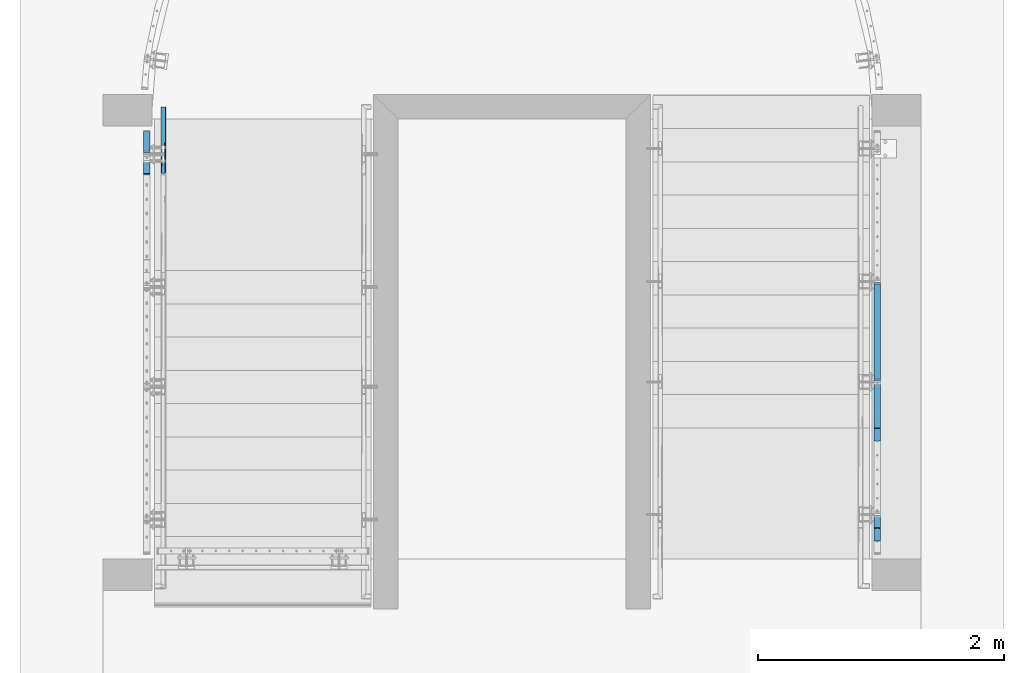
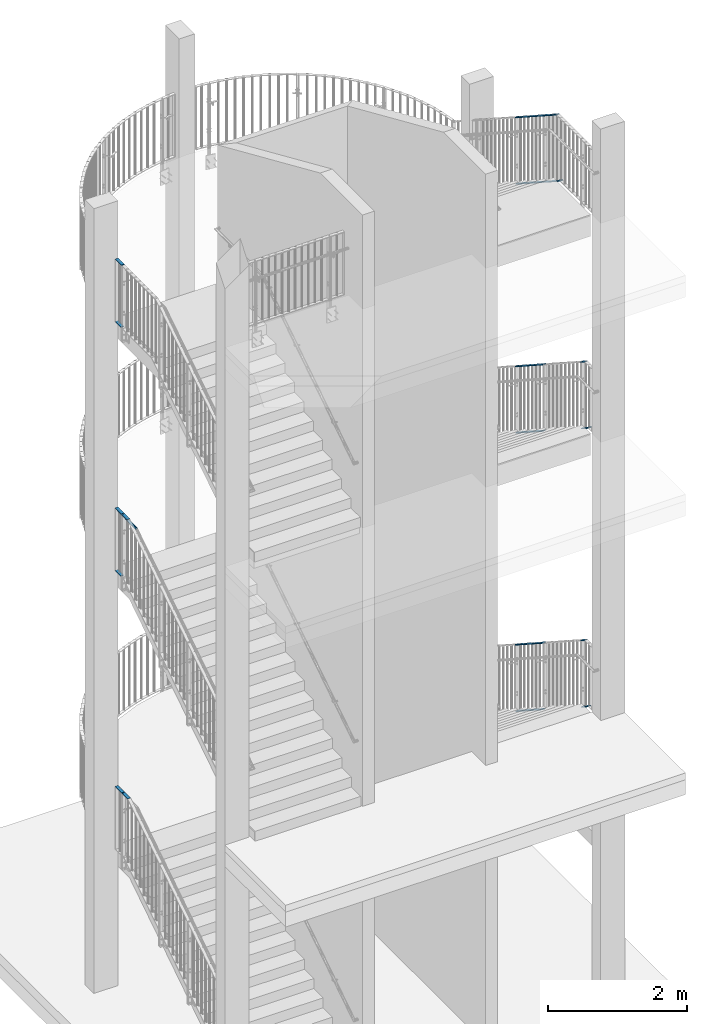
# One storey, part 99 of 296: 12 members, 8 beams, 9 openings.
"""IFC2X3 building model written with IfcOpenShell, lengths in millimetres."""

from ifc_helpers import new_model, entity, si_unit, converted_unit, frame, origin, origin_with_axes, origin_2d, place, context, project, spatial, polyline, rectangle, circle, outline, extrude, clip, halfspace, material, element, save


model = new_model("IFC2X3")

# Units and contexts
model_context = context("Model", 3, precision=1e-09, world=origin_with_axes())
ifc_project = project(units=[si_unit("LENGTHUNIT", "METRE", prefix="MILLI"), si_unit("AREAUNIT", "SQUARE_METRE"), si_unit("VOLUMEUNIT", "CUBIC_METRE"), converted_unit("PLANEANGLEUNIT", "DEGREE", entity("IfcPlaneAngleMeasure", 0.01745329), si_unit("PLANEANGLEUNIT", "RADIAN"), dimensions=[0, 0, 0, 0, 0, 0, 0])], contexts=[model_context])

# Site, building, storey
site_placement = place(None, origin_with_axes())
site = spatial("IfcSite", under=ifc_project, at=site_placement, Name="TZD-S?d | Treppenhausgel?nder", CompositionType="ELEMENT")
building_placement = place(site_placement, origin_with_axes())
building = spatial("IfcBuilding", under=site, at=building_placement, Name="Struktur 1", CompositionType="ELEMENT")
storey_placement = place(building_placement, origin_with_axes())
storey = spatial("IfcBuildingStorey", under=building, at=storey_placement, Name="Default Storey", CompositionType="ELEMENT", Elevation=0.0)

# Member, opening
ifc_material_1 = material(Name="S235JR")
member_1_placement = place(None, frame((5894.999, -3419.781959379, 10825.895227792), z_axis=(0.0, -0.839339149, 0.543608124), x_axis=(0.0, 0.543608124, 0.839339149)))
member_1 = element("IfcMember", 1, at=member_1_placement, inside=storey, material=ifc_material_1, Name="-", ObjectType="-", context=model_context, shape_type="Clipping", body=[
    clip(extrude(rectangle(XDim=10.0, YDim=50.0, at=origin_2d()), origin(), (0.0, 0.0, 1.0), 153.707656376), halfspace(frame((-9061.287932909, 5894.999, -2550.900110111), z_axis=(0.283426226, 0.0, -0.958994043), x_axis=(0.0, 1.0, 0.0)), True)),
])
opening_1_placement = place(member_1_placement, frame((-23.272061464, -125.1, -11.832929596), z_axis=(0.0, -1.0, 0.0), x_axis=(0.543608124, 0.0, -0.839339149)))
element("IfcOpeningElement", 2, at=opening_1_placement, cuts=member_1, ObjectType="Opening", context=model_context, shape_type="SweptSolid", body=[
    extrude(outline(polyline([(0.0, 0.0), (52.09462461, 0.0), (52.09462461, 76.178630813), (0.0, 76.178630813), (0.0, 0.0)])), origin(), (0.0, 0.0, -1.0), 250.2),
])

# Member
member_2_placement = place(None, frame((5894.999, -3404.504902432, 9647.914992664), z_axis=(0.0, -0.839339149, 0.543608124), x_axis=(0.0, 0.543608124, 0.839339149)))
element("IfcMember", 3, at=member_2_placement, inside=storey, material=ifc_material_1, Name="-", ObjectType="-", context=model_context, shape_type="Clipping", body=[
    clip(clip(extrude(rectangle(XDim=10.0, YDim=50.0, at=origin_2d()), origin(), (0.0, 0.0, 1.0), 297.157011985), halfspace(frame((-8021.077834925, 5894.999, -2100.021501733), z_axis=(0.283426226, 0.0, -0.958994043), x_axis=(0.0, 1.0, 0.0)), True)), halfspace(frame((-8115.809707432, 5894.999, -5216.990055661), z_axis=(-0.543608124, 0.0, 0.839339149), x_axis=(0.0, -1.0, 0.0)), True)),
])

# Member, opening
member_3_placement = place(None, frame((5894.999, -3419.785202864, 5929.248477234), z_axis=(0.0, -0.83975893, 0.542959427), x_axis=(0.0, 0.542959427, 0.83975893)))
member_3 = element("IfcMember", 4, at=member_3_placement, inside=storey, material=ifc_material_1, Name="-", ObjectType="-", context=model_context, shape_type="Clipping", body=[
    clip(extrude(rectangle(XDim=10.0, YDim=50.0, at=origin_2d()), origin(), (0.0, 0.0, 1.0), 147.680627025), halfspace(frame((-4558.667087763, 5894.999, -1224.280677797), z_axis=(0.28305571, 0.0, -0.959103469), x_axis=(0.0, 1.0, 0.0)), True)),
])
opening_2_placement = place(member_3_placement, frame((-21.443735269, -125.1, -10.630766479), z_axis=(0.0, -1.0, 0.0), x_axis=(0.542959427, 0.0, -0.83975893)))
element("IfcOpeningElement", 5, at=opening_2_placement, cuts=member_3, ObjectType="Opening", context=model_context, shape_type="SweptSolid", body=[
    extrude(outline(polyline([(0.0, 0.0), (45.032336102, 0.0), (45.032336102, 61.874078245), (0.0, 61.874078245), (0.0, 0.0)])), origin(), (0.0, 0.0, -1.0), 250.2),
])

# Member
member_4_placement = place(None, frame((5894.999, -3404.504902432, 4751.276936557), z_axis=(0.0, -0.83975893, 0.542959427), x_axis=(0.0, 0.542959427, 0.83975893)))
element("IfcMember", 6, at=member_4_placement, inside=storey, material=ifc_material_1, Name="-", ObjectType="-", context=model_context, shape_type="Clipping", body=[
    clip(clip(extrude(rectangle(XDim=10.0, YDim=50.0, at=origin_2d()), origin(), (0.0, 0.0, 1.0), 291.28535469), halfspace(frame((-3518.209319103, 5894.999, -773.610527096), z_axis=(0.28305571, 0.0, -0.959103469), x_axis=(0.0, 1.0, 0.0)), True)), halfspace(frame((-4007.842778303, 5894.999, -2552.041836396), z_axis=(-0.542959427, 0.0, 0.83975893), x_axis=(0.0, -1.0, 0.0)), True)),
])

# Member, openings
member_5_placement = place(None, frame((5894.999, -1524.781959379, 9598.575619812), z_axis=(0.0, -0.839339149, 0.543608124), x_axis=(0.0, 0.543608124, 0.839339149)))
member_5 = element("IfcMember", 7, at=member_5_placement, inside=storey, material=ifc_material_1, Name="Gel?nder", ObjectType="Gel?nder", context=model_context, shape_type="SweptSolid", body=[
    extrude(rectangle(XDim=10.0, YDim=50.0, at=origin_2d()), origin(), (0.0, 0.0, 1.0), 959.60742697),
])
opening_3_placement = place(member_5_placement, frame((-39.802336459, -125.1, 966.390711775), z_axis=(0.0, -1.0, 0.0), x_axis=(0.543608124, 0.0, -0.839339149)))
element("IfcOpeningElement", 8, at=opening_3_placement, cuts=member_5, ObjectType="Opening", context=model_context, shape_type="SweptSolid", body=[
    extrude(outline(polyline([(0.0, 0.0), (30.049390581, 0.0), (30.049390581, 97.267739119), (0.0, 97.267739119), (0.0, 0.0)])), origin(), (0.0, 0.0, -1.0), 250.2),
])
opening_4_placement = place(member_5_placement, frame((-19.625359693, -125.1, -9.471099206), z_axis=(0.0, -1.0, 0.0), x_axis=(0.543608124, 0.0, -0.839339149)))
element("IfcOpeningElement", 9, at=opening_4_placement, cuts=member_5, ObjectType="Opening", context=model_context, shape_type="SweptSolid", body=[
    extrude(outline(polyline([(0.0, 0.0), (63.378258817, 0.0), (63.378258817, 62.074893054), (0.0, 62.074893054), (0.0, 0.0)])), origin(), (0.0, 0.0, -1.0), 250.2),
])

# Member
member_6_placement = place(None, frame((5894.999, -1509.504902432, 8420.595384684), z_axis=(0.0, -0.839339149, 0.543608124), x_axis=(0.0, 0.543608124, 0.839339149)))
element("IfcMember", 10, at=member_6_placement, inside=storey, material=ifc_material_1, Name="-", ObjectType="-", context=model_context, shape_type="Clipping", body=[
    clip(clip(extrude(rectangle(XDim=10.0, YDim=50.0, at=origin_2d()), origin(), (0.0, 0.0, 1.0), 996.010010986), halfspace(frame((-7085.672311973, 5894.999, -4549.809145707), z_axis=(-0.543608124, 0.0, 0.839339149), x_axis=(0.0, -1.0, 0.0)), True)), halfspace(frame((-7504.249480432, 5894.999, -3903.519679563), z_axis=(0.543608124, 0.0, -0.839339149), x_axis=(0.0, 1.0, 0.0)), True)),
])

# Member, openings
member_7_placement = place(None, frame((5894.999, -1524.785202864, 4704.006234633), z_axis=(0.0, -0.83975893, 0.542959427), x_axis=(0.0, 0.542959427, 0.83975893)))
member_7 = element("IfcMember", 11, at=member_7_placement, inside=storey, material=ifc_material_1, Name="Gel?nder", ObjectType="Gel?nder", context=model_context, shape_type="SweptSolid", body=[
    extrude(rectangle(XDim=10.0, YDim=50.0, at=origin_2d()), origin(), (0.0, 0.0, 1.0), 959.120011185),
])
opening_5_placement = place(member_7_placement, frame((-44.806246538, -125.1, 972.359439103), z_axis=(0.0, -1.0, 0.0), x_axis=(0.542959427, 0.0, -0.83975893)))
element("IfcOpeningElement", 12, at=opening_5_placement, cuts=member_7, ObjectType="Opening", context=model_context, shape_type="SweptSolid", body=[
    extrude(outline(polyline([(0.0, 0.0), (38.161698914, 0.0), (38.161698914, 90.528361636), (0.0, 90.528361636), (0.0, 0.0)])), origin(), (0.0, 0.0, -1.0), 250.2),
])
opening_6_placement = place(member_7_placement, frame((-22.043829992, -125.1, -11.01876722), z_axis=(0.0, -1.0, 0.0), x_axis=(0.542959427, 0.0, -0.83975893)))
element("IfcOpeningElement", 13, at=opening_6_placement, cuts=member_7, ObjectType="Opening", context=model_context, shape_type="SweptSolid", body=[
    extrude(outline(polyline([(0.0, 0.0), (69.038911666, 0.0), (69.038911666, 61.879459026), (0.0, 61.879459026), (0.0, 0.0)])), origin(), (0.0, 0.0, -1.0), 250.2),
])

# Member
member_8_placement = place(None, frame((5894.999, -1509.504902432, 3526.034693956), z_axis=(0.0, -0.83975893, 0.542959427), x_axis=(0.0, 0.542959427, 0.83975893)))
element("IfcMember", 14, at=member_8_placement, inside=storey, material=ifc_material_1, Name="-", ObjectType="-", context=model_context, shape_type="Clipping", body=[
    clip(clip(extrude(rectangle(XDim=10.0, YDim=50.0, at=origin_2d()), origin(), (0.0, 0.0, 1.0), 995.512122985), halfspace(frame((-3397.012336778, 5894.999, -1240.172313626), z_axis=(0.542959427, 0.0, -0.83975893), x_axis=(0.0, 1.0, 0.0)), True)), halfspace(frame((-2978.934663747, 5894.999, -1886.785010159), z_axis=(-0.542959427, 0.0, 0.83975893), x_axis=(0.0, -1.0, 0.0)), True)),
])

# Member, openings
member_9_placement = place(None, frame((5894.999, -1524.782608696, 13976.681477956), z_axis=(0.0, -0.839423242, 0.543478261), x_axis=(0.0, 0.543478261, 0.839423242)))
member_9 = element("IfcMember", 15, at=member_9_placement, inside=storey, material=ifc_material_1, Name="Gel?nder", ObjectType="Gel?nder", context=model_context, shape_type="SweptSolid", body=[
    extrude(rectangle(XDim=10.0, YDim=50.0, at=origin_2d()), origin(), (0.0, 0.0, 1.0), 959.509746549),
])
opening_7_placement = place(member_9_placement, frame((-49.419629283, -125.1, 973.231347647), z_axis=(0.0, -1.0, 0.0), x_axis=(0.543478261, 0.0, -0.839423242)))
element("IfcOpeningElement", 16, at=opening_7_placement, cuts=member_9, ObjectType="Opening", context=model_context, shape_type="SweptSolid", body=[
    extrude(outline(polyline([(0.0, 0.0), (41.095116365, 0.0), (41.095116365, 101.132256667), (0.0, 101.132256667), (0.0, 0.0)])), origin(), (0.0, 0.0, -1.0), 250.2),
])
opening_8_placement = place(member_9_placement, frame((-23.555423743, -125.1, -12.012378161), z_axis=(0.0, -1.0, 0.0), x_axis=(0.543478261, 0.0, -0.839423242)))
element("IfcOpeningElement", 17, at=opening_8_placement, cuts=member_9, ObjectType="Opening", context=model_context, shape_type="SweptSolid", body=[
    extrude(outline(polyline([(0.0, 0.0), (69.512627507, 0.0), (69.512627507, 87.301111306), (0.0, 87.301111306), (0.0, 0.0)])), origin(), (0.0, 0.0, -1.0), 250.2),
])

# Member
member_10_placement = place(None, frame((5894.999, -1509.504902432, 12798.702983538), z_axis=(0.0, -0.839423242, 0.543478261), x_axis=(0.0, 0.543478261, 0.839423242)))
element("IfcMember", 18, at=member_10_placement, inside=storey, material=ifc_material_1, Name="-", ObjectType="-", context=model_context, shape_type="Clipping", body=[
    clip(clip(extrude(rectangle(XDim=10.0, YDim=50.0, at=origin_2d()), origin(), (0.0, 0.0, 1.0), 995.910230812), halfspace(frame((-11179.938593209, 5894.999, -6281.764929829), z_axis=(0.543478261, 0.0, -0.839423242), x_axis=(0.0, 1.0, 0.0)), True)), halfspace(frame((-10761.461419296, 5894.999, -6928.119147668), z_axis=(-0.543478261, 0.0, 0.839423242), x_axis=(0.0, -1.0, 0.0)), True)),
])

# Member, opening
member_11_placement = place(None, frame((5894.999, -2339.782608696, 14504.347094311), z_axis=(0.0, -0.839423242, 0.543478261), x_axis=(0.0, 0.543478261, 0.839423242)))
member_11 = element("IfcMember", 19, at=member_11_placement, inside=storey, material=ifc_material_1, Name="-", ObjectType="-", context=model_context, shape_type="Clipping", body=[
    clip(extrude(rectangle(XDim=10.0, YDim=50.0, at=origin_2d()), origin(), (0.0, 0.0, 1.0), 469.385989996), halfspace(frame((-12824.332258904, 5894.999, -3346.29272937), z_axis=(0.28335204, 0.0, -0.959015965), x_axis=(0.0, 1.0, 0.0)), True)),
])
opening_9_placement = place(member_11_placement, frame((-14.124217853, -125.1, -5.906214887), z_axis=(0.0, -1.0, 0.0), x_axis=(0.543478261, 0.0, -0.839423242)))
element("IfcOpeningElement", 20, at=opening_9_placement, cuts=member_11, ObjectType="Opening", context=model_context, shape_type="SweptSolid", body=[
    extrude(outline(polyline([(0.0, 0.0), (50.263830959, 0.0), (50.263830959, 57.716866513), (0.0, 57.716866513), (0.0, 0.0)])), origin(), (0.0, 0.0, -1.0), 250.2),
])

# Member
member_12_placement = place(None, frame((5894.999, -2324.504902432, 13326.368599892), z_axis=(0.0, -0.839423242, 0.543478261), x_axis=(0.0, 0.543478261, 0.839423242)))
element("IfcMember", 21, at=member_12_placement, inside=storey, material=ifc_material_1, Name="-", ObjectType="-", context=model_context, shape_type="Clipping", body=[
    clip(clip(extrude(rectangle(XDim=10.0, YDim=50.0, at=origin_2d()), origin(), (0.0, 0.0, 1.0), 612.866419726), halfspace(frame((-11784.072545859, 5894.999, -2895.455881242), z_axis=(0.28335204, 0.0, -0.959015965), x_axis=(0.0, 1.0, 0.0)), True)), halfspace(frame((-11204.396201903, 5894.999, -7214.893939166), z_axis=(-0.543478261, 0.0, 0.839423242), x_axis=(0.0, -1.0, 0.0)), True)),
])

# Beams
beam_1_placement = place(None, frame((-45.0, -295.0, 12820.0), z_axis=(0.0, 1.0, 0.0), x_axis=(0.0, 0.0, 1.0)))
element("IfcBeam", 22, at=beam_1_placement, inside=storey, material=ifc_material_1, Name="Gel?nder", ObjectType="Gel?nder", context=model_context, shape_type="SweptSolid", body=[
    extrude(rectangle(XDim=10.0, YDim=50.0, at=origin_2d()), origin(), (0.0, 0.0, -1.0), 177.5),
])
beam_2_placement = place(None, frame((-45.0, -457.5, 11720.0), z_axis=(0.0, 1.0, 0.0), x_axis=(0.0, 0.0, 1.0)))
element("IfcBeam", 23, at=beam_2_placement, inside=storey, material=ifc_material_1, Name="-", ObjectType="-", context=model_context, shape_type="SweptSolid", body=[
    extrude(rectangle(XDim=10.0, YDim=50.0, at=origin_2d()), origin(), (0.0, 0.0, 1.0), 162.5),
])
beam_3_placement = place(None, frame((-45.0, -487.5, 8444.999), z_axis=(0.0, 1.0, 0.0), x_axis=(0.0, 0.0, 1.0)))
element("IfcBeam", 24, at=beam_3_placement, inside=storey, material=ifc_material_1, Name="-", ObjectType="-", context=model_context, shape_type="Clipping", body=[
    clip(extrude(rectangle(XDim=10.0, YDim=50.0, at=origin_2d()), origin(), (0.0, 0.0, -1.0), 177.60448094), halfspace(frame((-7943.597337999, 45.0, 2189.341584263), z_axis=(0.282612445, 0.0, 0.959234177), x_axis=(0.0, -1.0, 0.0)), True)),
])
beam_4_placement = place(None, frame((-45.0, -295.0, 8444.999), z_axis=(0.0, 1.0, 0.0), x_axis=(0.0, 0.0, 1.0)))
element("IfcBeam", 25, at=beam_4_placement, inside=storey, material=ifc_material_1, Name="Gel?nder", ObjectType="Gel?nder", context=model_context, shape_type="SweptSolid", body=[
    extrude(rectangle(XDim=10.0, YDim=50.0, at=origin_2d()), origin(), (0.0, 0.0, -1.0), 177.5),
])
beam_5_placement = place(None, frame((-45.0, -457.5, 7344.999), z_axis=(0.0, 1.0, 0.0), x_axis=(0.0, 0.0, 1.0)))
element("IfcBeam", 26, at=beam_5_placement, inside=storey, material=ifc_material_1, Name="-", ObjectType="-", context=model_context, shape_type="SweptSolid", body=[
    extrude(rectangle(XDim=10.0, YDim=50.0, at=origin_2d()), origin(), (0.0, 0.0, 1.0), 162.5),
])
ifc_material_2 = material(Name="Buche")
beam_6_placement = place(None, frame((90.0, -663.59284486, 8229.999), z_axis=(0.0, -1.0, 0.0), x_axis=(1.0, 0.0, 0.0)))
element("IfcBeam", 27, at=beam_6_placement, inside=storey, material=ifc_material_2, Name="Girder", ObjectType="Girder", context=model_context, shape_type="Clipping", body=[
    clip(extrude(circle(Radius=20.0, at=origin_2d()), origin(), (0.0, 0.0, -1.0), 563.593845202), halfspace(frame((-90.0, -7744.571296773, -2311.216125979), z_axis=(0.0, 0.282612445, -0.959234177), x_axis=(-1.0, 0.0, 0.0)), True)),
])
beam_7_placement = place(None, frame((-45.0, -497.5, 3544.998), z_axis=(0.0, 1.0, 0.0), x_axis=(0.0, 0.0, 1.0)))
element("IfcBeam", 28, at=beam_7_placement, inside=storey, material=ifc_material_1, Name="-", ObjectType="-", context=model_context, shape_type="Clipping", body=[
    clip(extrude(rectangle(XDim=10.0, YDim=50.0, at=origin_2d()), origin(), (0.0, 0.0, -1.0), 182.609005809), halfspace(frame((-3437.321470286, 45.0, 861.312998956), z_axis=(0.283797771, 0.0, 0.958884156), x_axis=(0.0, -1.0, 0.0)), True)),
])
beam_8_placement = place(None, frame((-45.0, -295.0, 3544.998), z_axis=(0.0, 1.0, 0.0), x_axis=(0.0, 0.0, 1.0)))
element("IfcBeam", 29, at=beam_8_placement, inside=storey, material=ifc_material_1, Name="Gel?nder", ObjectType="Gel?nder", context=model_context, shape_type="SweptSolid", body=[
    extrude(rectangle(XDim=10.0, YDim=50.0, at=origin_2d()), origin(), (0.0, 0.0, -1.0), 187.5),
])

save(model, "model.ifc")
